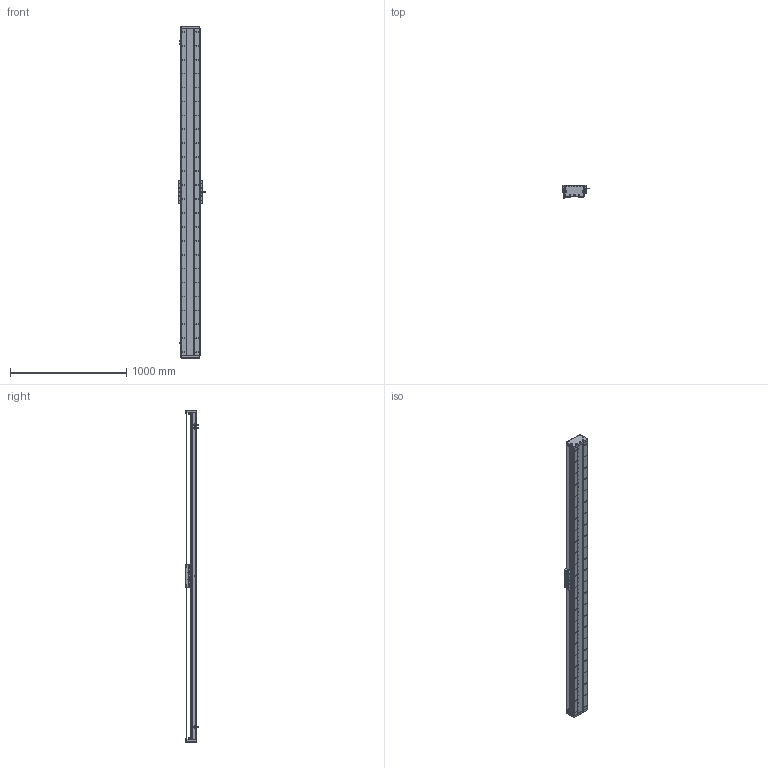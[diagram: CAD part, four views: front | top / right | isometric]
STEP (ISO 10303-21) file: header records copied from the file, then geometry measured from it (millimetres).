
FILE_DESCRIPTION (( 'STEP AP203' ), '1' );
FILE_NAME ('DA-C165-C2-T2580-C010-0.2 直线电机.STEP', '2023-05-11T07:49:45', ( '微软用户' ), ( '微软中国' ), 'SwSTEP 2.0', 'SolidWorks 2019', '' );
FILE_SCHEMA (( 'CONFIG_CONTROL_DESIGN' ));
Length unit declared in the file: millimetre
Products named in the file (18): DA-C165-C2-T2580-C010-0.2 眻盄萇儂; 复件 DA165-GDYK-00 钢带压块^复件 CU165钢带组件_DA-C165-C2-T-C010-0.2-N 直线电机; IU-CU165-L-00 菁釱_L2820; 复件 DA95-HXJ-00 缓冲橡胶^DA-C165-C2-T-C010-0.2-N 直线电机; 复件 DMA-010-0.2 读数头^DA-C165-C2-T-C010-0.2-N 直线电机; 复件 DA165-GD-DG-H-00 端盖^复件 CU165钢带组件_DA-C165-C2-T-C010-0.2-N 直线电机; 葩璃 CKM01-W075-TRL^DA-C165-C2-T-C010-0.2-N 眻盄萇儂; IU-CU165-L 菁釱絳寢; 葩璃 PM-T45^DA-C165-C2-T-C010-0.2-N 眻盄萇儂; 复件 DA165-GYP-00 光电感应片^DA-C165-C2-T-C010-0.2-N 直线电机; 复件 DA165-GD-1860-002-00 钢带盖板^复件 CU165钢带组件_DA-C165-C2-T-C010-0.2-N 直线电机; 葩璃 DA95-GT-T-00^IU-CU165-L 菁釱絳寢_T; 复件 CKM02-W075-C1C2-TP-3.0 一体电机-C2^DA-C165-C2-T-C010-0.2-N 直线电机; 复件 DA165-GDLK-00 钢带拉块^复件 CU165钢带组件_DA-C165-C2-T-C010-0.2-N 直线电机; 复件 CU165钢带组件^DA-C165-C2-T-C010-0.2-N 直线电机; 珨极趙賑雄怢啣wf-C2; 复件 六角薄螺母 M3^DA-C165-C2-T-C010-0.2-N 直线电机_GB_FASTENER_NUT_STNAB M3-C; 复件 XD-U-02L 磁栅尺^DA-C165-C2-T-C010-0.2-N 直线电机_T
Assembly tree (33 placements, depth 3):
  DA-C165-C2-T2580-C010-0.2 眻盄萇儂
    IU-CU165-L 菁釱絳寢
      IU-CU165-L-00 菁釱_L2820
      葩璃 DA95-GT-T-00^IU-CU165-L 菁釱絳寢_T  x4
    复件 XD-U-02L 磁栅尺^DA-C165-C2-T-C010-0.2-N 直线电机_T
    葩璃 PM-T45^DA-C165-C2-T-C010-0.2-N 眻盄萇儂  x3
    葩璃 CKM01-W075-TRL^DA-C165-C2-T-C010-0.2-N 眻盄萇儂
    复件 CU165钢带组件^DA-C165-C2-T-C010-0.2-N 直线电机
      复件 DA165-GD-DG-H-00 端盖^复件 CU165钢带组件_DA-C165-C2-T-C010-0.2-N 直线电机  x2
      复件 DA165-GDYK-00 钢带压块^复件 CU165钢带组件_DA-C165-C2-T-C010-0.2-N 直线电机  x2
      复件 DA165-GD-1860-002-00 钢带盖板^复件 CU165钢带组件_DA-C165-C2-T-C010-0.2-N 直线电机
      复件 DA165-GDLK-00 钢带拉块^复件 CU165钢带组件_DA-C165-C2-T-C010-0.2-N 直线电机  x2
    复件 DA95-HXJ-00 缓冲橡胶^DA-C165-C2-T-C010-0.2-N 直线电机  x4
    复件 DA165-GYP-00 光电感应片^DA-C165-C2-T-C010-0.2-N 直线电机
    复件 DMA-010-0.2 读数头^DA-C165-C2-T-C010-0.2-N 直线电机
    复件 CKM02-W075-C1C2-TP-3.0 一体电机-C2^DA-C165-C2-T-C010-0.2-N 直线电机
    复件 六角薄螺母 M3^DA-C165-C2-T-C010-0.2-N 直线电机_GB_FASTENER_NUT_STNAB M3-C  x6
    珨极趙賑雄怢啣wf-C2
Bounding box: 233 x 111.45 x 2860 mm (x, y, z)
Volume: 15710194 mm3; surface area: 4755974.3 mm2
Topology: 70 solids, 70 shells, 4011 faces, 11899 edges, 7621 vertices
Faces by surface type: cylinder 2421, plane 1110, cone 430, torus 46, sphere 4
Entity records: 137745 total; most frequent: CARTESIAN_POINT 37983, ORIENTED_EDGE 20970, DIRECTION 19995, EDGE_CURVE 10485, AXIS2_PLACEMENT_3D 7655, VERTEX_POINT 6857, EDGE_LOOP 4758, LINE 4685
